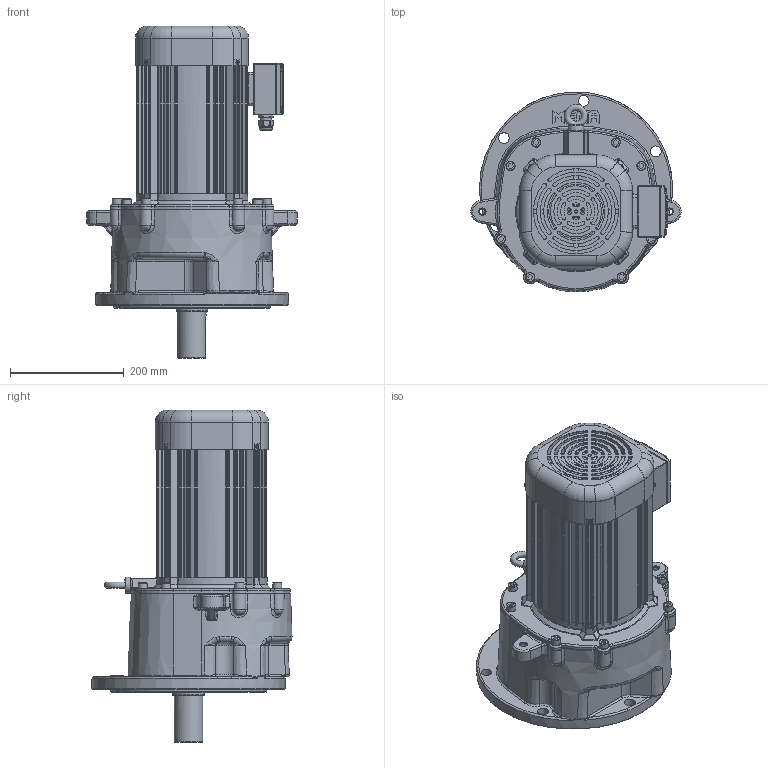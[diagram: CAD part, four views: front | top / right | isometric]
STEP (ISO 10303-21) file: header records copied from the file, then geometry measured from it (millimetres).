
FILE_DESCRIPTION(/* description */ (''),/* implementation_level */ '2;1');
FILE_NAME(/* name */ 'Z:\동력 3D 파일\PMK181_2.2kW_3D.stp',/* time_stamp */ '2021-12-01T09:13:54+09:00',/* author */ ('jaebok'),/* organization */ (''),/* preprocessor_version */ 'ST-DEVELOPER v18.1',/* originating_system */ 'Autodesk Inventor 2022',/* authorisation */ '');
FILE_SCHEMA (('AUTOMOTIVE_DESIGN { 1 0 10303 214 3 1 1 }'));
Length unit declared in the file: millimetre
Products named in the file (1): 부품9
Bounding box: 369.86 x 352.21 x 584.5 mm (x, y, z)
Volume: 7934043.8 mm3; surface area: 1488545.3 mm2
Topology: 1 solids, 40 shells, 3529 faces, 8959 edges, 5337 vertices
Faces by surface type: plane 1119, cylinder 906, bspline 797, torus 375, cone 213, sphere 119
Full cylindrical faces by diameter (mm): 3.25 x1, 3.5 x4, 3.6 x4, 4 x21, 5 x13, 6 x5, 6.8 x4, 7 x8, 8 x9, 8.376 x8, 9 x4, 10 x9, 10.106 x2, 10.2 x1, 11 x8, 12 x6, 12.5 x1, 15 x1, 16 x8, 19 x6, 20 x2, 21 x1, 22 x1, 23.6 x1, 25 x1, 26 x1, 28 x1, 31 x1, 36 x2, 48 x1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
Entity records: 135663 total; most frequent: CARTESIAN_POINT 52153, ORIENTED_EDGE 17354, DIRECTION 15808, EDGE_CURVE 8677, AXIS2_PLACEMENT_3D 6358, VERTEX_POINT 5337, EDGE_LOOP 3780, CIRCLE 3597
